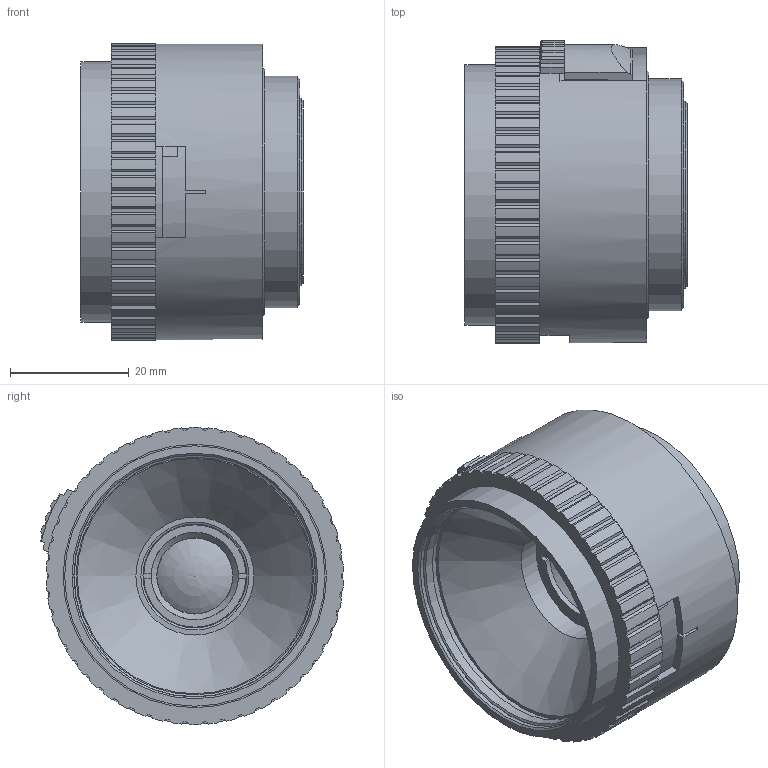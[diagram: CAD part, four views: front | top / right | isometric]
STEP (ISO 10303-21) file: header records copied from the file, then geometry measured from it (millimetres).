
FILE_DESCRIPTION(/* description */ (''),/* implementation_level */ '2;1');
FILE_NAME(/* name */ '0701-401-000-40_AP.stp',/* time_stamp */ '2016-06-15T14:07:57+02:00',/* author */ (''),/* organization */ (''),/* preprocessor_version */ 'ST-DEVELOPER v15',/* originating_system */ 'SIEMENS PLM Software NX 8.5',/* authorisation */ '');
FILE_SCHEMA (('AUTOMOTIVE_DESIGN { 1 0 10303 214 3 1 1 1 }'));
Length unit declared in the file: millimetre
Products named in the file (1): silk1B90E3FBt7wt
Bounding box: 37.36 x 50.94 x 50 mm (x, y, z)
Volume: 48718.5 mm3; surface area: 17251.5 mm2
Topology: 1 solids, 1 shells, 478 faces, 1289 edges, 823 vertices
Faces by surface type: plane 347, cylinder 105, cone 24, revolution 2
Full cylindrical faces by diameter (mm): 12.8 x2, 14.7 x2, 17.459 x2, 18.2 x1, 19.85 x1, 31.5 x1, 35.4 x1, 35.6 x1, 39 x1, 39.958 x1, 40.7 x2, 43.8 x1, 44.3 x1, 45.524 x1, 49.7 x1
Entity records: 17928 total; most frequent: CARTESIAN_POINT 2663, DIRECTION 2536, ORIENTED_EDGE 2458, EDGE_CURVE 1229, AXIS2_PLACEMENT_3D 855, LINE 824, VECTOR 824, VERTEX_POINT 804
